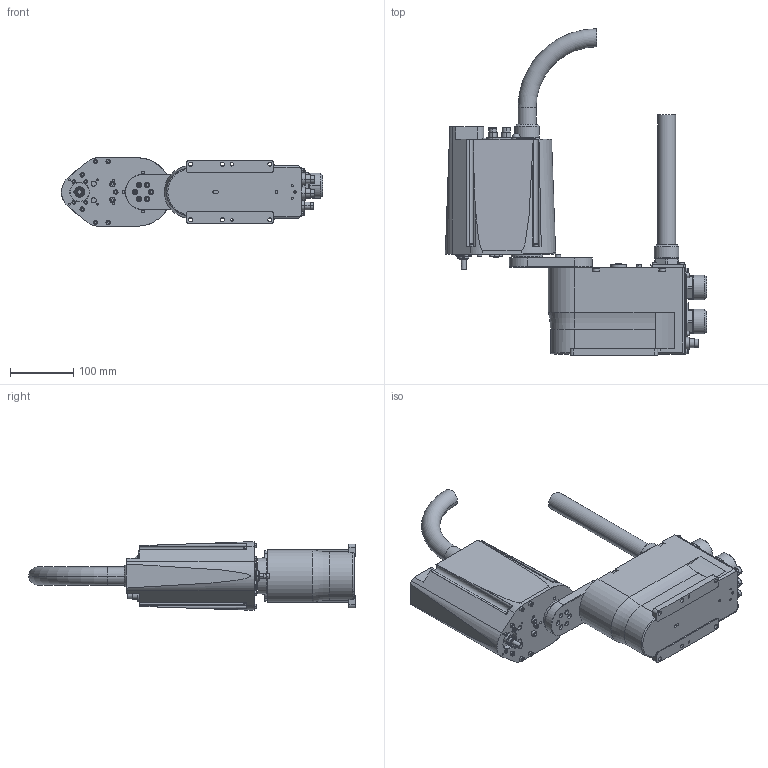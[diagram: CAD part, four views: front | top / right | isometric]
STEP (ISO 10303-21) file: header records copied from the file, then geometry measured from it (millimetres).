
FILE_DESCRIPTION( ( '' ), '1' );
FILE_NAME( '//expscmdclustefs.cadenas.external/client_exchange/iodir/jobs/output/wkb51503301_no0/STEP/G1_171S_2_03.stp', '2012-11-22T12:50:04', ( '' ), ( '' ), ' ', ' ', ' ' );
FILE_SCHEMA( ( 'CONFIG_CONTROL_DESIGN' ) );
Length unit declared in the file: millimetre
Products named in the file (4): 1; 2; 3; 4
Bounding box: 411.7 x 515 x 108 mm (x, y, z)
Volume: 5104746.5 mm3; surface area: 385963.1 mm2
Topology: 4 solids, 6 shells, 1492 faces, 3550 edges, 2306 vertices
Faces by surface type: plane 805, cylinder 498, cone 174, torus 10, sphere 5
Entity records: 43819 total; most frequent: CARTESIAN_POINT 7896, DIRECTION 7727, ORIENTED_EDGE 7096, EDGE_CURVE 3548, AXIS2_PLACEMENT_3D 2735, VERTEX_POINT 2306, LINE 2257, VECTOR 2257
